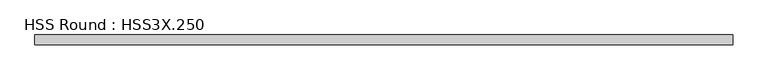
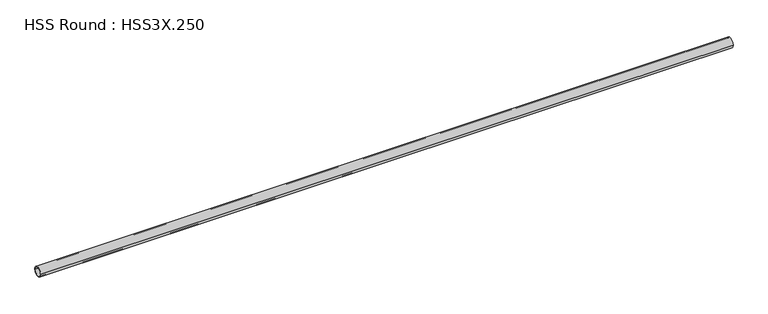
"""IFC4 building model written with IfcOpenShell, lengths in millimetres: member geometry, HSS Round : HSS3X.250."""

from ifc_helpers import new_model, si_unit, point, frame, origin, origin_2d, place, context, project, spatial, circle_curve, trimmed, segment, composite_curve, outline, extrude, source, transform, mapped, element, save


def hss_round_hss3x_250_910272d4(model_context):
    return source(origin(), model_context, "Body", "SweptSolid", [
        extrude(outline(composite_curve([segment(trimmed(circle_curve(origin_2d(), 38.1), [point((-38.1, 0.0))], [point((38.1, 0.0))], False, "CARTESIAN"), True, "CONTINUOUS"), segment(trimmed(circle_curve(origin_2d(), 38.1), [point((38.1, 0.0))], [point((-38.1, 0.0))], False, "CARTESIAN"), True, "CONTINUOUS")], self_intersect=False), holes=[composite_curve([segment(trimmed(circle_curve(origin_2d(), 31.75), [point((31.75, 0.0))], [point((-31.75, 0.0))], True, "CARTESIAN"), True, "CONTINUOUS"), segment(trimmed(circle_curve(origin_2d(), 31.75), [point((-31.75, 0.0))], [point((31.75, 0.0))], True, "CARTESIAN"), True, "CONTINUOUS")], self_intersect=False)]), frame((-2752.4246704, 0.0, 0.0), z_axis=(1.0, 0.0, 0.0), x_axis=(0.0, 1.0, 0.0)), (0.0, 0.0, 1.0), 5411.6931133),
    ])


if __name__ == "__main__":
    model = new_model("IFC4")
    model_context = context("Model", 3, world=origin())
    ifc_project = project(units=[si_unit("LENGTHUNIT", "METRE", prefix="MILLI")], contexts=[model_context])
    site = spatial("IfcSite", under=ifc_project)
    building = spatial("IfcBuilding", under=site)
    placement = place(None, origin())
    hss_round_hss3x_250_shape = hss_round_hss3x_250_910272d4(model_context)
    element("IfcMember", 1, ObjectType="HSS Round : HSS3X.250", at=placement, inside=building, context=model_context, shape_type="MappedRepresentation", body=[
        mapped(hss_round_hss3x_250_shape, transform((0.0, 0.0, 0.0), x_axis=(1.0, 0.0, 0.0), y_axis=(0.0, 1.0, 0.0), z_axis=(0.0, 0.0, 1.0))),
    ])
    save(model, "model.ifc")
